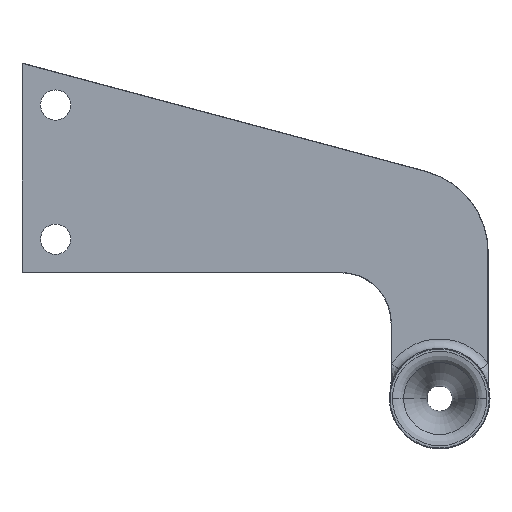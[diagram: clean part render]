
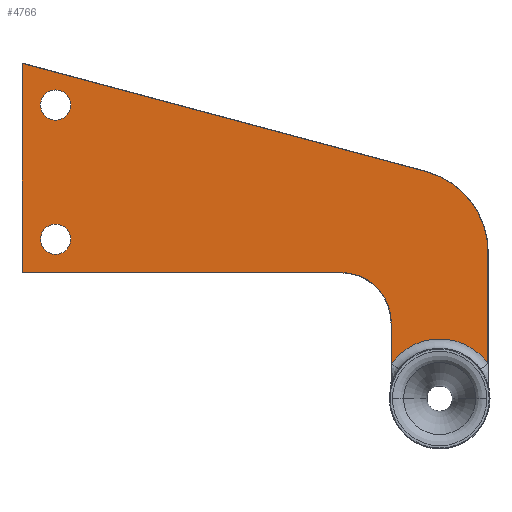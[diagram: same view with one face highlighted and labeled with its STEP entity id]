
A CAD part, left-side view. The second image highlights one B-rep face of the part: STEP entity #4766.
In plain terms, the highlighted planar face has unit normal (-1, 0, 0).
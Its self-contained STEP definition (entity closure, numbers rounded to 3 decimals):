
#1394=DIRECTION('',(0.,0.,-1.));
#1395=VECTOR('',#1394,24.073);
#1396=CARTESIAN_POINT('',(-48.,28.8,45.));
#1397=LINE('',#1396,#1395);
#1398=CARTESIAN_POINT('',(-48.,59.,45.));
#1399=DIRECTION('',(1.,0.,0.));
#1400=DIRECTION('',(0.,0.,1.));
#1401=AXIS2_PLACEMENT_3D('',#1398,#1399,#1400);
#1403=DIRECTION('',(0.,-1.,0.));
#1404=VECTOR('',#1403,190.);
#1405=CARTESIAN_POINT('',(-48.,249.,75.2));
#1406=LINE('',#1405,#1404);
#1407=DIRECTION('',(0.,0.,-1.));
#1408=VECTOR('',#1407,124.593);
#1409=CARTESIAN_POINT('',(-48.,249.,199.793));
#1410=LINE('',#1409,#1408);
#1411=DIRECTION('',(0.,0.966,0.259));
#1412=VECTOR('',#1411,249.387);
#1413=CARTESIAN_POINT('',(-48.,8.111,135.247));
#1414=LINE('',#1413,#1412);
#1415=CARTESIAN_POINT('',(-48.,21.,87.144));
#1416=DIRECTION('',(-1.,0.,0.));
#1417=DIRECTION('',(0.,-1.,0.));
#1418=AXIS2_PLACEMENT_3D('',#1415,#1416,#1417);
#1420=DIRECTION('',(0.,0.,1.));
#1421=VECTOR('',#1420,66.217);
#1422=CARTESIAN_POINT('',(-48.,-28.8,
20.927));
#1423=LINE('',#1422,#1421);
#1424=CARTESIAN_POINT('',(-48.,0.,0.));
#1425=DIRECTION('',(1.,0.,0.));
#1426=DIRECTION('',(0.,0.809,0.588));
#1427=AXIS2_PLACEMENT_3D('',#1424,#1425,#1426);
#1429=CARTESIAN_POINT('',(-48.,229.,95.));
#1430=DIRECTION('',(-1.,0.,0.));
#1431=DIRECTION('',(0.,1.,0.));
#1432=AXIS2_PLACEMENT_3D('',#1429,#1430,#1431);
#1434=CARTESIAN_POINT('',(-48.,229.,95.));
#1435=DIRECTION('',(-1.,0.,0.));
#1436=DIRECTION('',(0.,-1.,0.));
#1437=AXIS2_PLACEMENT_3D('',#1434,#1435,#1436);
#1439=CARTESIAN_POINT('',(-48.,229.,175.));
#1440=DIRECTION('',(-1.,0.,0.));
#1441=DIRECTION('',(0.,1.,0.));
#1442=AXIS2_PLACEMENT_3D('',#1439,#1440,#1441);
#1444=CARTESIAN_POINT('',(-48.,229.,175.));
#1445=DIRECTION('',(-1.,0.,0.));
#1446=DIRECTION('',(0.,-1.,0.));
#1447=AXIS2_PLACEMENT_3D('',#1444,#1445,#1446);
#1506=CARTESIAN_POINT('',(-48.,28.8,20.927));
#1620=CARTESIAN_POINT('',(-48.,249.,199.793));
#1716=CARTESIAN_POINT('',(-48.,-28.8,
20.927));
#2357=CARTESIAN_POINT('',(-48.,59.,75.2));
#2358=CARTESIAN_POINT('',(-48.,28.8,45.));
#2359=VERTEX_POINT('',#2357);
#2360=VERTEX_POINT('',#2358);
#2366=CARTESIAN_POINT('',(-48.,249.,75.2));
#2368=VERTEX_POINT('',#2366);
#2369=VERTEX_POINT('',#1620);
#2373=CARTESIAN_POINT('',(-48.,8.111,135.247));
#2374=VERTEX_POINT('',#2373);
#2375=CARTESIAN_POINT('',(-48.,-28.8,87.144));
#2376=VERTEX_POINT('',#2375);
#2413=VERTEX_POINT('',#1716);
#2432=VERTEX_POINT('',#1506);
#2581=CARTESIAN_POINT('',(-48.,238.,95.));
#2582=CARTESIAN_POINT('',(-48.,220.,95.));
#2583=VERTEX_POINT('',#2581);
#2584=VERTEX_POINT('',#2582);
#2597=CARTESIAN_POINT('',(-48.,238.,175.));
#2598=CARTESIAN_POINT('',(-48.,220.,175.));
#2599=VERTEX_POINT('',#2597);
#2600=VERTEX_POINT('',#2598);
#4732=CARTESIAN_POINT('',(-48.,0.,0.));
#4733=DIRECTION('',(-1.,0.,0.));
#4734=DIRECTION('',(0.,0.,1.));
#4735=AXIS2_PLACEMENT_3D('',#4732,#4733,#4734);
#4736=PLANE('',#4735);
#4738=ORIENTED_EDGE('',*,*,#4737,.F.);
#4740=ORIENTED_EDGE('',*,*,#4739,.F.);
#4742=ORIENTED_EDGE('',*,*,#4741,.F.);
#4744=ORIENTED_EDGE('',*,*,#4743,.F.);
#4746=ORIENTED_EDGE('',*,*,#4745,.F.);
#4748=ORIENTED_EDGE('',*,*,#4747,.F.);
#4750=ORIENTED_EDGE('',*,*,#4749,.F.);
#4751=ORIENTED_EDGE('',*,*,#4723,.F.);
#4752=EDGE_LOOP('',(#4738,#4740,#4742,#4744,#4746,#4748,#4750,#4751));
#4753=FACE_OUTER_BOUND('',#4752,.F.);
#4755=ORIENTED_EDGE('',*,*,#4754,.T.);
#4757=ORIENTED_EDGE('',*,*,#4756,.T.);
#4758=EDGE_LOOP('',(#4755,#4757));
#4759=FACE_BOUND('',#4758,.F.);
#4761=ORIENTED_EDGE('',*,*,#4760,.T.);
#4763=ORIENTED_EDGE('',*,*,#4762,.T.);
#4764=EDGE_LOOP('',(#4761,#4763));
#4765=FACE_BOUND('',#4764,.F.);
#4766=ADVANCED_FACE('',(#4753,#4759,#4765),#4736,.T.);
#1402=CIRCLE('',#1401,30.2);
#1419=CIRCLE('',#1418,49.8);
#1428=CIRCLE('',#1427,35.6);
#1433=CIRCLE('',#1432,9.);
#1438=CIRCLE('',#1437,9.);
#1443=CIRCLE('',#1442,9.);
#1448=CIRCLE('',#1447,9.);
#4723=EDGE_CURVE('',#2432,#2413,#1428,.T.);
#4737=EDGE_CURVE('',#2360,#2432,#1397,.T.);
#4739=EDGE_CURVE('',#2359,#2360,#1402,.T.);
#4741=EDGE_CURVE('',#2368,#2359,#1406,.T.);
#4743=EDGE_CURVE('',#2369,#2368,#1410,.T.);
#4745=EDGE_CURVE('',#2374,#2369,#1414,.T.);
#4747=EDGE_CURVE('',#2376,#2374,#1419,.T.);
#4749=EDGE_CURVE('',#2413,#2376,#1423,.T.);
#4754=EDGE_CURVE('',#2583,#2584,#1433,.T.);
#4756=EDGE_CURVE('',#2584,#2583,#1438,.T.);
#4760=EDGE_CURVE('',#2599,#2600,#1443,.T.);
#4762=EDGE_CURVE('',#2600,#2599,#1448,.T.);
